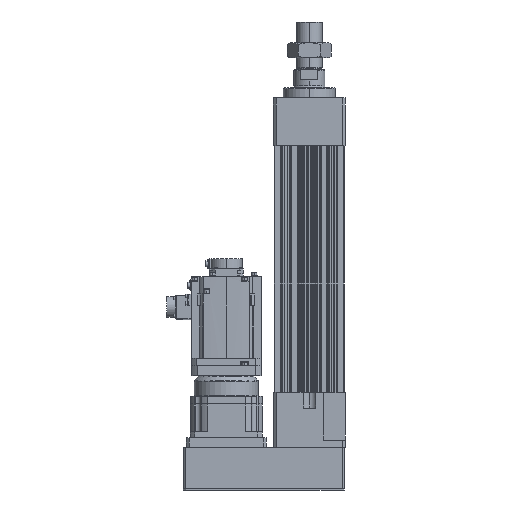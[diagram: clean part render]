
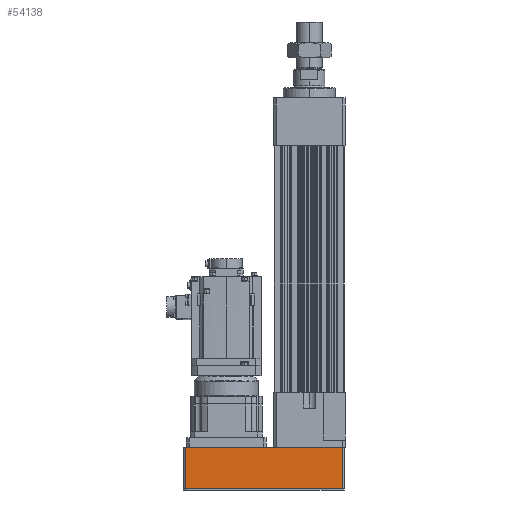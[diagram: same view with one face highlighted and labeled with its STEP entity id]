
A CAD part, left-side view. The second image highlights one B-rep face of the part: STEP entity #54138.
In plain terms, the highlighted planar face has unit normal (-1, 0, 0).
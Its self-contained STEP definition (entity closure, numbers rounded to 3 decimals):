
#2118 = VERTEX_POINT ( 'NONE', #3396 ) ;
#3166 = VECTOR ( 'NONE', #43763, 1000. ) ;
#3209 = VECTOR ( 'NONE', #53298, 1000. ) ;
#3396 = CARTESIAN_POINT ( 'NONE',  ( -88., -310., 103.5 ) ) ;
#4825 = CARTESIAN_POINT ( 'NONE',  ( -88., -310., 104. ) ) ;
#6087 = EDGE_CURVE ( 'NONE', #47564, #2118, #33439, .T. ) ;
#7776 = CARTESIAN_POINT ( 'NONE',  ( -88., 88., 104. ) ) ;
#8234 = CARTESIAN_POINT ( 'NONE',  ( -88., 82., 103.5 ) ) ;
#8986 = CARTESIAN_POINT ( 'NONE',  ( -88., 88., 0.5 ) ) ;
#9161 = DIRECTION ( 'NONE',  ( 0., -1., 0. ) ) ;
#9174 = CARTESIAN_POINT ( 'NONE',  ( -88., 82., 0.5 ) ) ;
#10618 = VECTOR ( 'NONE', #9161, 1000. ) ;
#11084 = ORIENTED_EDGE ( 'NONE', *, *, #27884, .T. ) ;
#12432 = PLANE ( 'NONE',  #16985 ) ;
#16770 = DIRECTION ( 'NONE',  ( 0., 1., 0. ) ) ;
#16985 = AXIS2_PLACEMENT_3D ( 'NONE', #7776, #42574, #16770 ) ;
#17031 = DIRECTION ( 'NONE',  ( 0., 1., 0. ) ) ;
#21371 = LINE ( 'NONE', #8986, #10618 ) ;
#22493 = CARTESIAN_POINT ( 'NONE',  ( -88., -310., 0.5 ) ) ;
#23781 = CARTESIAN_POINT ( 'NONE',  ( -88., 82., 103.5 ) ) ;
#27436 = LINE ( 'NONE', #53108, #3209 ) ;
#27884 = EDGE_CURVE ( 'NONE', #2118, #41404, #40253, .T. ) ;
#27970 = EDGE_CURVE ( 'NONE', #31838, #47564, #21371, .T. ) ;
#28336 = EDGE_CURVE ( 'NONE', #41404, #31838, #27436, .T. ) ;
#29799 = EDGE_LOOP ( 'NONE', ( #46505, #32489, #39143, #11084 ) ) ;
#31838 = VERTEX_POINT ( 'NONE', #9174 ) ;
#32489 = ORIENTED_EDGE ( 'NONE', *, *, #27970, .T. ) ;
#33439 = LINE ( 'NONE', #4825, #3166 ) ;
#39143 = ORIENTED_EDGE ( 'NONE', *, *, #6087, .T. ) ;
#39618 = VECTOR ( 'NONE', #17031, 1000. ) ;
#40253 = LINE ( 'NONE', #8234, #39618 ) ;
#41404 = VERTEX_POINT ( 'NONE', #23781 ) ;
#42574 = DIRECTION ( 'NONE',  ( 1., 0., 0. ) ) ;
#43763 = DIRECTION ( 'NONE',  ( 0., 0., 1. ) ) ;
#46505 = ORIENTED_EDGE ( 'NONE', *, *, #28336, .T. ) ;
#47564 = VERTEX_POINT ( 'NONE', #22493 ) ;
#48727 = FACE_OUTER_BOUND ( 'NONE', #29799, .T. ) ;
#53108 = CARTESIAN_POINT ( 'NONE',  ( -88., 82., 104. ) ) ;
#53298 = DIRECTION ( 'NONE',  ( 0., 0., -1. ) ) ;
#54138 = ADVANCED_FACE ( 'NONE', ( #48727 ), #12432, .F. ) ;
